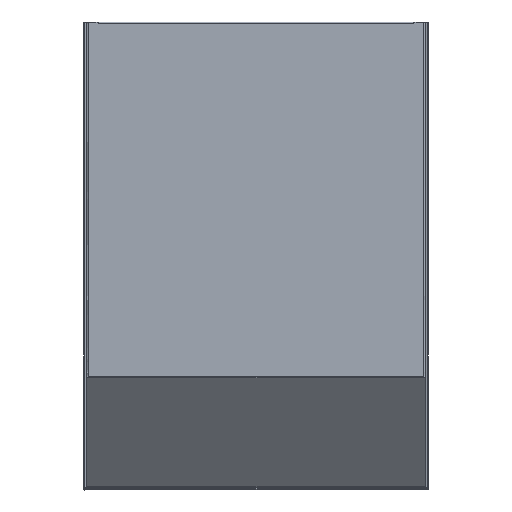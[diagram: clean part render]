
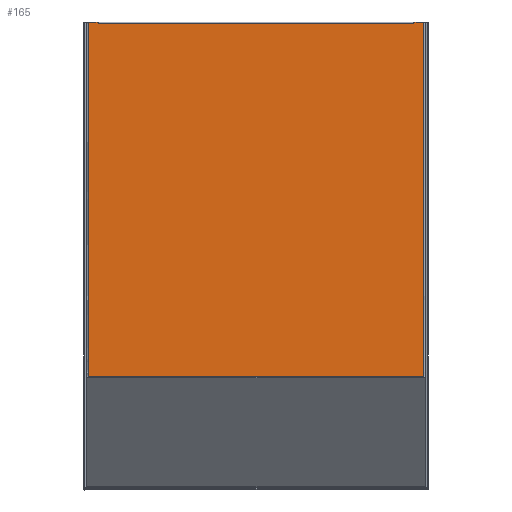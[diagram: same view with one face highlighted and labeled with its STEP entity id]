
A CAD part, front view. The second image highlights one B-rep face of the part: STEP entity #165.
In plain terms, the highlighted planar face has unit normal (0, -1, 0).
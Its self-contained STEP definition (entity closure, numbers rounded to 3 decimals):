
#165=ADVANCED_FACE('',(#714),#8532,.T.);
#714=FACE_OUTER_BOUND('',#1267,.T.);
#1267=EDGE_LOOP('',(#2186,#2187,#2188,#2189,#2190,#2191,#2192,#2193));
#2186=ORIENTED_EDGE('',*,*,#4814,.T.);
#2187=ORIENTED_EDGE('',*,*,#4821,.T.);
#2188=ORIENTED_EDGE('',*,*,#4815,.T.);
#2189=ORIENTED_EDGE('',*,*,#4816,.T.);
#2190=ORIENTED_EDGE('',*,*,#4817,.T.);
#2191=ORIENTED_EDGE('',*,*,#4818,.T.);
#2192=ORIENTED_EDGE('',*,*,#4819,.T.);
#2193=ORIENTED_EDGE('',*,*,#4828,.T.);
#4814=EDGE_CURVE('',#7755,#7756,#6244,.T.);
#4815=EDGE_CURVE('',#7757,#7758,#6245,.T.);
#4816=EDGE_CURVE('',#7758,#7759,#6246,.T.);
#4817=EDGE_CURVE('',#7759,#7760,#6247,.T.);
#4818=EDGE_CURVE('',#7760,#7761,#6248,.T.);
#4819=EDGE_CURVE('',#7761,#7762,#6249,.T.);
#4821=EDGE_CURVE('',#7756,#7757,#6251,.T.);
#4828=EDGE_CURVE('',#7762,#7755,#6256,.T.);
#6244=B_SPLINE_CURVE_WITH_KNOTS('',1,(#12188,#12189),.UNSPECIFIED.,.F.,.F.,
(2,2),(0.,326.),.UNSPECIFIED.);
#6245=B_SPLINE_CURVE_WITH_KNOTS('',1,(#12190,#12191),.UNSPECIFIED.,.F.,.F.,
(2,2),(0.,8.961),.UNSPECIFIED.);
#6246=B_SPLINE_CURVE_WITH_KNOTS('',1,(#12192,#12193),.UNSPECIFIED.,.F.,.F.,
(2,2),(0.,366.128),.UNSPECIFIED.);
#6247=B_SPLINE_CURVE_WITH_KNOTS('',1,(#12194,#12195),.UNSPECIFIED.,.F.,.F.,
(2,2),(0.,346.),.UNSPECIFIED.);
#6248=B_SPLINE_CURVE_WITH_KNOTS('',1,(#12196,#12197),.UNSPECIFIED.,.F.,.F.,
(2,2),(0.,366.128),.UNSPECIFIED.);
#6249=B_SPLINE_CURVE_WITH_KNOTS('',1,(#12198,#12199),.UNSPECIFIED.,.F.,.F.,
(2,2),(0.,8.961),.UNSPECIFIED.);
#6251=B_SPLINE_CURVE_WITH_KNOTS('',1,(#12202,#12203),.UNSPECIFIED.,.F.,.F.,
(2,2),(0.,2.078),.UNSPECIFIED.);
#6256=B_SPLINE_CURVE_WITH_KNOTS('',1,(#12218,#12219),.UNSPECIFIED.,.F.,.F.,
(2,2),(0.,2.078),.UNSPECIFIED.);
#7755=VERTEX_POINT('',#12054);
#7756=VERTEX_POINT('',#12055);
#7757=VERTEX_POINT('',#12056);
#7758=VERTEX_POINT('',#12057);
#7759=VERTEX_POINT('',#12058);
#7760=VERTEX_POINT('',#12059);
#7761=VERTEX_POINT('',#12060);
#7762=VERTEX_POINT('',#12061);
#8532=PLANE('',#9154);
#9154=AXIS2_PLACEMENT_3D('',#11304,#9365,$);
#9365=DIRECTION('',(0.,-1.,0.));
#11304=CARTESIAN_POINT('',(-207.601,-110.,36.614));
#12054=CARTESIAN_POINT('',(163.,-110.,-1.8));
#12055=CARTESIAN_POINT('',(-163.,-110.,-1.8));
#12056=CARTESIAN_POINT('',(-164.039,-110.,0.));
#12057=CARTESIAN_POINT('',(-173.,-110.,0.));
#12058=CARTESIAN_POINT('',(-173.,-110.,-366.128));
#12059=CARTESIAN_POINT('',(173.,-110.,-366.128));
#12060=CARTESIAN_POINT('',(173.,-110.,0.));
#12061=CARTESIAN_POINT('',(164.039,-110.,0.));
#12188=CARTESIAN_POINT('',(163.,-110.,-1.8));
#12189=CARTESIAN_POINT('',(-163.,-110.,-1.8));
#12190=CARTESIAN_POINT('',(-164.039,-110.,0.));
#12191=CARTESIAN_POINT('',(-173.,-110.,0.));
#12192=CARTESIAN_POINT('',(-173.,-110.,0.));
#12193=CARTESIAN_POINT('',(-173.,-110.,-366.128));
#12194=CARTESIAN_POINT('',(-173.,-110.,-366.128));
#12195=CARTESIAN_POINT('',(173.,-110.,-366.128));
#12196=CARTESIAN_POINT('',(173.,-110.,-366.128));
#12197=CARTESIAN_POINT('',(173.,-110.,0.));
#12198=CARTESIAN_POINT('',(173.,-110.,0.));
#12199=CARTESIAN_POINT('',(164.039,-110.,0.));
#12202=CARTESIAN_POINT('',(-163.,-110.,-1.8));
#12203=CARTESIAN_POINT('',(-164.039,-110.,0.));
#12218=CARTESIAN_POINT('',(164.039,-110.,0.));
#12219=CARTESIAN_POINT('',(163.,-110.,-1.8));
